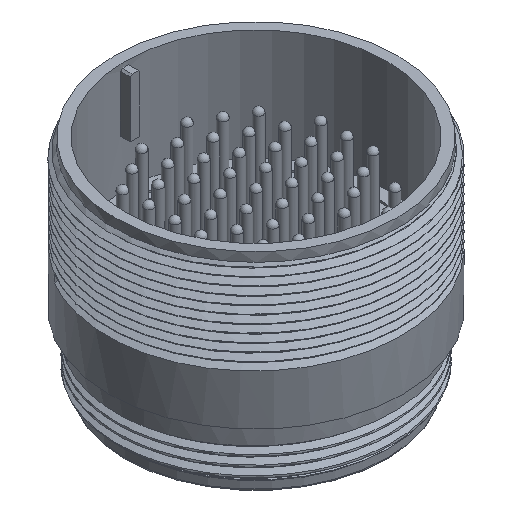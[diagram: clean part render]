
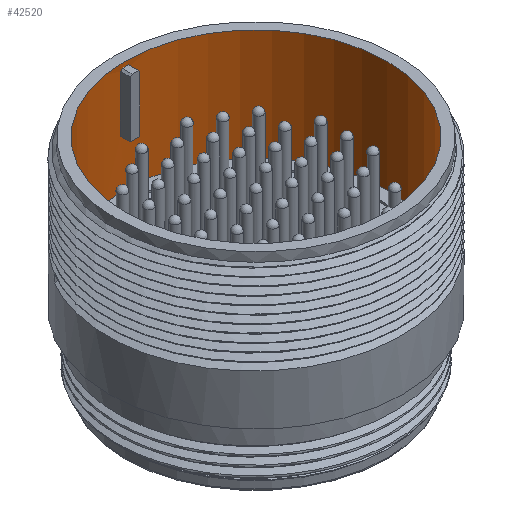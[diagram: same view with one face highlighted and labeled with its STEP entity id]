
A CAD part, isometric view. The second image highlights one B-rep face of the part: STEP entity #42520.
In plain terms, the highlighted cylindrical face has radius 22.56 mm (diameter 45.12 mm), a full revolution.
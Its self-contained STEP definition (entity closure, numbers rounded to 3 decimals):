
#403 = CARTESIAN_POINT ( 'NONE',  ( -0.825, 22.545, -1.1 ) ) ;
#734 = EDGE_CURVE ( 'NONE', #123085, #42561, #11560, .T. ) ;
#1890 = DIRECTION ( 'NONE',  ( 0., 0., 1. ) ) ;
#4856 = EDGE_CURVE ( 'NONE', #106356, #106356, #126103, .T. ) ;
#5606 = EDGE_CURVE ( 'NONE', #17415, #123085, #82773, .T. ) ;
#8339 = ORIENTED_EDGE ( 'NONE', *, *, #734, .T. ) ;
#11560 =( BOUNDED_CURVE ( )  B_SPLINE_CURVE ( 3, ( #71305, #52774, #101928, #120826 ),
 .UNSPECIFIED., .F., .T. ) 
 B_SPLINE_CURVE_WITH_KNOTS ( ( 4, 4 ),
 ( 4.676, 4.689 ),
 .UNSPECIFIED. ) 
 CURVE ( )  GEOMETRIC_REPRESENTATION_ITEM ( )  RATIONAL_B_SPLINE_CURVE ( ( 1., 1., 1., 1. ) ) 
 REPRESENTATION_ITEM ( '' )  );
#17415 = VERTEX_POINT ( 'NONE', #28629 ) ;
#19806 = DIRECTION ( 'NONE',  ( 0., 0., 1. ) ) ;
#20244 = EDGE_LOOP ( 'NONE', ( #113416 ) ) ;
#20447 = CARTESIAN_POINT ( 'NONE',  ( 0.525, 22.554, -0.8 ) ) ;
#22284 = CARTESIAN_POINT ( 'NONE',  ( 0.825, 22.545, -10.8 ) ) ;
#23186 = AXIS2_PLACEMENT_3D ( 'NONE', #47330, #37381, #68434 ) ;
#24932 = AXIS2_PLACEMENT_3D ( 'NONE', #31598, #1890, #60572 ) ;
#27724 = DIRECTION ( 'NONE',  ( 0., 0., 1. ) ) ;
#28629 = CARTESIAN_POINT ( 'NONE',  ( -0.825, 22.545, -10.8 ) ) ;
#31598 = CARTESIAN_POINT ( 'NONE',  ( 0., 0., 22.455 ) ) ;
#34773 = LINE ( 'NONE', #22284, #40955 ) ;
#37381 = DIRECTION ( 'NONE',  ( 0., 0., 1. ) ) ;
#37908 = FACE_OUTER_BOUND ( 'NONE', #20244, .T. ) ;
#40955 = VECTOR ( 'NONE', #71419, 1000. ) ;
#42520 = ADVANCED_FACE ( 'NONE', ( #84203, #37908, #70335 ), #64149, .F. ) ;
#42561 = VERTEX_POINT ( 'NONE', #101092 ) ;
#43922 = ORIENTED_EDGE ( 'NONE', *, *, #5606, .T. ) ;
#44193 = CARTESIAN_POINT ( 'NONE',  ( 22.56, 0., -19.18 ) ) ;
#47330 = CARTESIAN_POINT ( 'NONE',  ( 0., 0., 0. ) ) ;
#47408 = AXIS2_PLACEMENT_3D ( 'NONE', #124711, #76412, #105334 ) ;
#48295 = CARTESIAN_POINT ( 'NONE',  ( 0., 0., -0.8 ) ) ;
#52774 = CARTESIAN_POINT ( 'NONE',  ( -0.725, 22.549, -1. ) ) ;
#53649 = AXIS2_PLACEMENT_3D ( 'NONE', #48295, #19806, #127587 ) ;
#55521 = EDGE_CURVE ( 'NONE', #127137, #42561, #109001, .T. ) ;
#56579 = VECTOR ( 'NONE', #119951, 1000. ) ;
#58148 = AXIS2_PLACEMENT_3D ( 'NONE', #67855, #27724, #107489 ) ;
#59330 = CARTESIAN_POINT ( 'NONE',  ( 0.825, 22.545, -1.1 ) ) ;
#60572 = DIRECTION ( 'NONE',  ( 1., 0., 0. ) ) ;
#64045 = EDGE_LOOP ( 'NONE', ( #112331, #84115, #43922, #8339, #125229, #82367 ) ) ;
#64149 = CYLINDRICAL_SURFACE ( 'NONE', #24932, 22.56 ) ;
#67855 = CARTESIAN_POINT ( 'NONE',  ( 0., 0., -10.8 ) ) ;
#68434 = DIRECTION ( 'NONE',  ( 1., 0., 0. ) ) ;
#70335 = FACE_BOUND ( 'NONE', #64045, .T. ) ;
#71305 = CARTESIAN_POINT ( 'NONE',  ( -0.825, 22.545, -1.1 ) ) ;
#71419 = DIRECTION ( 'NONE',  ( 0., 0., 1. ) ) ;
#72858 = EDGE_CURVE ( 'NONE', #81609, #81609, #73340, .T. ) ;
#73340 = CIRCLE ( 'NONE', #23186, 22.56 ) ;
#76412 = DIRECTION ( 'NONE',  ( 0., 0., 1. ) ) ;
#79958 = EDGE_LOOP ( 'NONE', ( #107529 ) ) ;
#81575 = CARTESIAN_POINT ( 'NONE',  ( 0.825, 22.545, -1.1 ) ) ;
#81609 = VERTEX_POINT ( 'NONE', #116139 ) ;
#82367 = ORIENTED_EDGE ( 'NONE', *, *, #99344, .T. ) ;
#82773 = LINE ( 'NONE', #100637, #56579 ) ;
#83243 = VERTEX_POINT ( 'NONE', #59330 ) ;
#84115 = ORIENTED_EDGE ( 'NONE', *, *, #98247, .T. ) ;
#84203 = FACE_OUTER_BOUND ( 'NONE', #79958, .T. ) ;
#93216 = CARTESIAN_POINT ( 'NONE',  ( 0.825, 22.545, -10.8 ) ) ;
#93248 = CARTESIAN_POINT ( 'NONE',  ( 0.725, 22.549, -1. ) ) ;
#98247 = EDGE_CURVE ( 'NONE', #119442, #17415, #117089, .T. ) ;
#99344 = EDGE_CURVE ( 'NONE', #127137, #83243, #124690, .T. ) ;
#100637 = CARTESIAN_POINT ( 'NONE',  ( -0.825, 22.545, -10.8 ) ) ;
#101092 = CARTESIAN_POINT ( 'NONE',  ( -0.525, 22.554, -0.8 ) ) ;
#101928 = CARTESIAN_POINT ( 'NONE',  ( -0.625, 22.552, -0.9 ) ) ;
#105334 = DIRECTION ( 'NONE',  ( 1., 0., 0. ) ) ;
#106356 = VERTEX_POINT ( 'NONE', #44193 ) ;
#107489 = DIRECTION ( 'NONE',  ( 1., 0., 0. ) ) ;
#107529 = ORIENTED_EDGE ( 'NONE', *, *, #72858, .T. ) ;
#109001 = CIRCLE ( 'NONE', #53649, 22.56 ) ;
#109203 = CARTESIAN_POINT ( 'NONE',  ( 0.625, 22.552, -0.9 ) ) ;
#112331 = ORIENTED_EDGE ( 'NONE', *, *, #125398, .F. ) ;
#113416 = ORIENTED_EDGE ( 'NONE', *, *, #4856, .F. ) ;
#116139 = CARTESIAN_POINT ( 'NONE',  ( 22.56, 0., 0. ) ) ;
#117089 = CIRCLE ( 'NONE', #58148, 22.56 ) ;
#119442 = VERTEX_POINT ( 'NONE', #93216 ) ;
#119951 = DIRECTION ( 'NONE',  ( 0., 0., 1. ) ) ;
#120826 = CARTESIAN_POINT ( 'NONE',  ( -0.525, 22.554, -0.8 ) ) ;
#122875 = CARTESIAN_POINT ( 'NONE',  ( 0.525, 22.554, -0.8 ) ) ;
#123085 = VERTEX_POINT ( 'NONE', #403 ) ;
#124690 =( BOUNDED_CURVE ( )  B_SPLINE_CURVE ( 3, ( #20447, #109203, #93248, #81575 ),
 .UNSPECIFIED., .F., .F. ) 
 B_SPLINE_CURVE_WITH_KNOTS ( ( 4, 4 ),
 ( 1.594, 1.607 ),
 .UNSPECIFIED. ) 
 CURVE ( )  GEOMETRIC_REPRESENTATION_ITEM ( )  RATIONAL_B_SPLINE_CURVE ( ( 1., 1., 1., 1. ) ) 
 REPRESENTATION_ITEM ( '' )  );
#124711 = CARTESIAN_POINT ( 'NONE',  ( 0., 0., -19.18 ) ) ;
#125229 = ORIENTED_EDGE ( 'NONE', *, *, #55521, .F. ) ;
#125398 = EDGE_CURVE ( 'NONE', #119442, #83243, #34773, .T. ) ;
#126103 = CIRCLE ( 'NONE', #47408, 22.56 ) ;
#127137 = VERTEX_POINT ( 'NONE', #122875 ) ;
#127587 = DIRECTION ( 'NONE',  ( 1., 0., 0. ) ) ;
